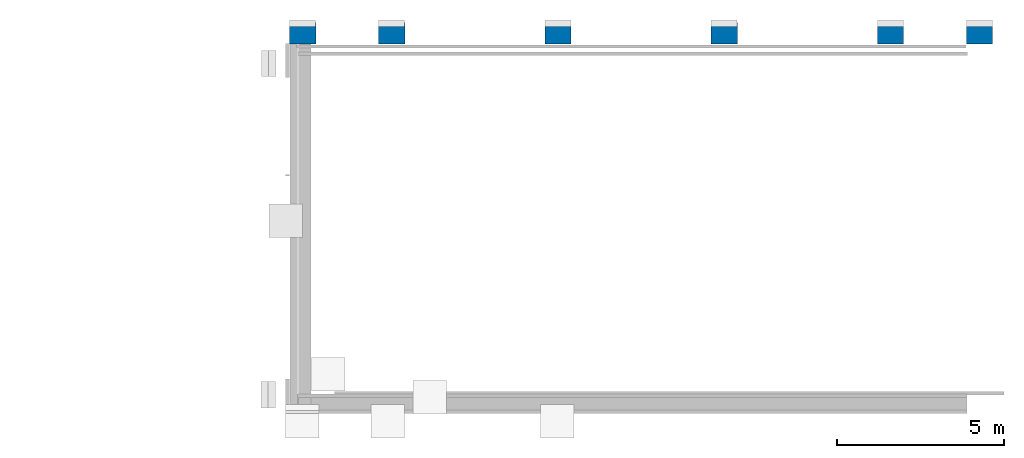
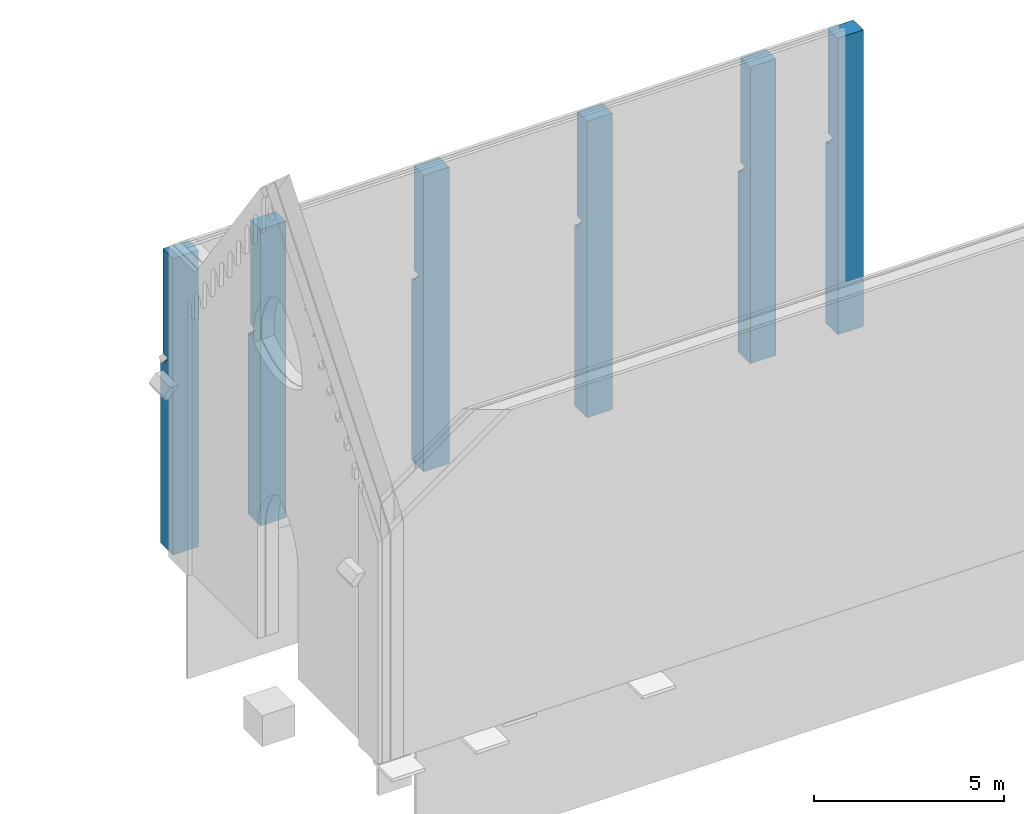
# Not in any storey, part 5 of 5: 6 walls.
"""IFC4 model written with IfcOpenShell, lengths in metres."""

from ifc_helpers import new_model, entity, si_unit, converted_unit, frame, origin_with_axes, origin_2d_with_axis, place, context, subcontext, project, polygons, element, save


model = new_model("IFC4")

# Units and contexts
model_context = context("Model", 3, precision=1e-05, world=origin_with_axes())
plan_context = context("Plan", 2, precision=1e-05, world=origin_2d_with_axis())
body_context = subcontext(model_context, "Body", "Model", "MODEL_VIEW")
ifc_project = project(units=[si_unit("LENGTHUNIT", "METRE"), converted_unit("PLANEANGLEUNIT", "degree", entity("IfcReal", 0.0174532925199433), si_unit("PLANEANGLEUNIT", "RADIAN"), dimensions=[0, 0, 0, 0, 0, 0, 0]), si_unit("AREAUNIT", "SQUARE_METRE"), si_unit("VOLUMEUNIT", "CUBIC_METRE")], contexts=[model_context, plan_context])

# Walls
wall_1_placement = place(None, frame((0.118741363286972, 1.38077664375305, -0.652048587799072), z_axis=(0.999999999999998, 4.37113882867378e-08, -4.37113882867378e-08), x_axis=(-4.37113882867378e-08, 0.999999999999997, -5.96046376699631e-08)))
element("IfcWall", 1, at=wall_1_placement, Name="Buttress_east_01", PredefinedType="SOLIDWALL", context=body_context, shape_type="Tessellation", body=[
    polygons([(9.65258884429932, 10.1823081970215, 0.0), (9.94387245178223, 6.81891202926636, 0.0), (10.176194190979, 10.1823081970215, 4.03733180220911e-09), (9.65258884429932, 10.1823081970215, 0.779999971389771), (10.176194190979, 10.1823081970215, 0.779999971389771), (9.94387245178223, 6.81891202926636, 0.779999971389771), (9.94387245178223, 6.74691295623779, 0.0), (9.65338706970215, 0.649991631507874, 0.0), (10.176194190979, 6.81891202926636, 4.03733180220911e-09), (10.0038709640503, 6.74691295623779, 0.0), (10.0038709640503, 6.67491388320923, 0.0), (10.0638704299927, 6.67491388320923, 0.0), (10.0638704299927, 6.60291481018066, 0.0), (10.1238698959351, 6.60291481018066, 0.0), (10.1238698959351, 6.5309157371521, 0.0), (10.1838684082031, 6.5309157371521, 0.0), (10.1838684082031, 6.45891666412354, 0.0), (10.3038673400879, 6.45891666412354, 0.0), (10.3038673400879, 0.649991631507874, 0.0), (9.65338706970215, 0.649991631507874, 0.779999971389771), (9.94387245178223, 6.74691295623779, 0.779999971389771), (10.176194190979, 6.81891202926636, 0.779999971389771), (10.0038709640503, 6.67491388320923, 0.779999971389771), (10.0038709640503, 6.74691295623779, 0.779999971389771), (10.0638704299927, 6.60291481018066, 0.779999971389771), (10.0638704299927, 6.67491388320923, 0.779999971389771), (10.1238698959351, 6.5309157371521, 0.779999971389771), (10.1238698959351, 6.60291481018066, 0.779999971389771), (10.1838684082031, 6.45891666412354, 0.779999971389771), (10.1838684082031, 6.5309157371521, 0.779999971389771), (10.3038673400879, 0.649991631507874, 0.779999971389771), (10.3038673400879, 6.45891666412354, 0.779999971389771)], [[[1, 3, 2]], [[5, 4, 6]], [[8, 1, 7]], [[3, 9, 2]], [[7, 10, 11]], [[7, 11, 8]], [[11, 12, 13]], [[11, 13, 8]], [[13, 14, 15]], [[13, 15, 8]], [[15, 16, 17]], [[15, 17, 8]], [[17, 18, 19]], [[17, 19, 8]], [[7, 1, 2]], [[4, 20, 21]], [[5, 6, 22]], [[21, 23, 24]], [[21, 20, 23]], [[26, 23, 25]], [[23, 20, 25]], [[28, 25, 27]], [[25, 20, 27]], [[30, 27, 29]], [[27, 20, 29]], [[32, 29, 31]], [[29, 20, 31]], [[4, 21, 6]], [[26, 25, 13]], [[26, 13, 12]], [[3, 1, 4]], [[3, 4, 5]], [[20, 4, 1]], [[20, 1, 8]], [[14, 13, 25]], [[14, 25, 28]], [[5, 22, 9]], [[5, 9, 3]], [[27, 15, 14]], [[27, 14, 28]], [[2, 9, 22]], [[2, 22, 6]], [[16, 15, 27]], [[16, 27, 30]], [[21, 7, 2]], [[21, 2, 6]], [[30, 29, 17]], [[30, 17, 16]], [[24, 10, 7]], [[24, 7, 21]], [[18, 17, 29]], [[18, 29, 32]], [[24, 23, 11]], [[24, 11, 10]], [[31, 19, 18]], [[31, 18, 32]], [[26, 12, 11]], [[26, 11, 23]], [[19, 20, 8]], [[19, 31, 20]]], closed=True),
])
wall_2_placement = place(None, frame((2.77874135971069, 1.38077664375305, -0.652048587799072), z_axis=(0.999999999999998, 4.37113882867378e-08, -4.37113882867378e-08), x_axis=(-4.37113882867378e-08, 0.999999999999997, -5.96046376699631e-08)))
element("IfcWall", 2, at=wall_2_placement, Name="Buttress_east_02", PredefinedType="SOLIDWALL", context=body_context, shape_type="Tessellation", body=[
    polygons([(9.65258884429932, 10.1823081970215, 0.0), (9.94387245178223, 6.81891202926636, 0.0), (10.176194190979, 10.1823081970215, 4.03733180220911e-09), (9.65258884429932, 10.1823081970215, 0.779999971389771), (10.176194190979, 10.1823081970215, 0.779999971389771), (9.94387245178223, 6.81891202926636, 0.779999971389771), (9.94387245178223, 6.74691295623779, 0.0), (9.65338706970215, 0.649991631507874, 0.0), (10.176194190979, 6.81891202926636, 4.03733180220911e-09), (10.0038709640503, 6.74691295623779, 0.0), (10.0038709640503, 6.67491388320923, 0.0), (10.0638704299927, 6.67491388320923, 0.0), (10.0638704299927, 6.60291481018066, 0.0), (10.1238698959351, 6.60291481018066, 0.0), (10.1238698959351, 6.5309157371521, 0.0), (10.1838684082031, 6.5309157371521, 0.0), (10.1838684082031, 6.45891666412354, 0.0), (10.3038673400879, 6.45891666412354, 0.0), (10.3038673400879, 0.649991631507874, 0.0), (9.65338706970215, 0.649991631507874, 0.779999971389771), (9.94387245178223, 6.74691295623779, 0.779999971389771), (10.176194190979, 6.81891202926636, 0.779999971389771), (10.0038709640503, 6.67491388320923, 0.779999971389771), (10.0038709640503, 6.74691295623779, 0.779999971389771), (10.0638704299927, 6.60291481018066, 0.779999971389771), (10.0638704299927, 6.67491388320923, 0.779999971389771), (10.1238698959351, 6.5309157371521, 0.779999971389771), (10.1238698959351, 6.60291481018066, 0.779999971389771), (10.1838684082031, 6.45891666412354, 0.779999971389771), (10.1838684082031, 6.5309157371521, 0.779999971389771), (10.3038673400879, 0.649991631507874, 0.779999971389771), (10.3038673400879, 6.45891666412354, 0.779999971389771)], [[[1, 3, 2]], [[5, 4, 6]], [[8, 1, 7]], [[3, 9, 2]], [[7, 10, 11]], [[7, 11, 8]], [[11, 12, 13]], [[11, 13, 8]], [[13, 14, 15]], [[13, 15, 8]], [[15, 16, 17]], [[15, 17, 8]], [[17, 18, 19]], [[17, 19, 8]], [[7, 1, 2]], [[4, 20, 21]], [[5, 6, 22]], [[21, 23, 24]], [[21, 20, 23]], [[26, 23, 25]], [[23, 20, 25]], [[28, 25, 27]], [[25, 20, 27]], [[30, 27, 29]], [[27, 20, 29]], [[32, 29, 31]], [[29, 20, 31]], [[4, 21, 6]], [[26, 25, 13]], [[26, 13, 12]], [[3, 1, 4]], [[3, 4, 5]], [[20, 4, 1]], [[20, 1, 8]], [[14, 13, 25]], [[14, 25, 28]], [[5, 22, 9]], [[5, 9, 3]], [[27, 15, 14]], [[27, 14, 28]], [[2, 9, 22]], [[2, 22, 6]], [[16, 15, 27]], [[16, 27, 30]], [[21, 7, 2]], [[21, 2, 6]], [[30, 29, 17]], [[30, 17, 16]], [[24, 10, 7]], [[24, 7, 21]], [[18, 17, 29]], [[18, 29, 32]], [[24, 23, 11]], [[24, 11, 10]], [[31, 19, 18]], [[31, 18, 32]], [[26, 12, 11]], [[26, 11, 23]], [[19, 20, 8]], [[19, 31, 20]]], closed=True),
])
wall_3_placement = place(None, frame((7.74374151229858, 1.38077664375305, -0.652048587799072), z_axis=(0.999999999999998, 4.37113882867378e-08, -4.37113882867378e-08), x_axis=(-4.37113882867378e-08, 0.999999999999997, -5.96046376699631e-08)))
element("IfcWall", 3, at=wall_3_placement, Name="Buttress_east_03", PredefinedType="SOLIDWALL", context=body_context, shape_type="Tessellation", body=[
    polygons([(9.65258884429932, 10.1823081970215, 0.0), (9.94387245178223, 6.81891202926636, 0.0), (10.176194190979, 10.1823081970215, 4.03733180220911e-09), (9.65258884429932, 10.1823081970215, 0.779999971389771), (10.176194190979, 10.1823081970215, 0.779999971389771), (9.94387245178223, 6.81891202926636, 0.779999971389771), (9.94387245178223, 6.74691295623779, 0.0), (9.65338706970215, 0.649991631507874, 0.0), (10.176194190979, 6.81891202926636, 4.03733180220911e-09), (10.0038709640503, 6.74691295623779, 0.0), (10.0038709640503, 6.67491388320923, 0.0), (10.0638704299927, 6.67491388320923, 0.0), (10.0638704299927, 6.60291481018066, 0.0), (10.1238698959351, 6.60291481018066, 0.0), (10.1238698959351, 6.5309157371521, 0.0), (10.1838684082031, 6.5309157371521, 0.0), (10.1838684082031, 6.45891666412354, 0.0), (10.3038673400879, 6.45891666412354, 0.0), (10.3038673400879, 0.649991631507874, 0.0), (9.65338706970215, 0.649991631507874, 0.779999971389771), (9.94387245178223, 6.74691295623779, 0.779999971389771), (10.176194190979, 6.81891202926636, 0.779999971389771), (10.0038709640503, 6.67491388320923, 0.779999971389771), (10.0038709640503, 6.74691295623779, 0.779999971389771), (10.0638704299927, 6.60291481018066, 0.779999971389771), (10.0638704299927, 6.67491388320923, 0.779999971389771), (10.1238698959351, 6.5309157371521, 0.779999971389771), (10.1238698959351, 6.60291481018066, 0.779999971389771), (10.1838684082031, 6.45891666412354, 0.779999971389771), (10.1838684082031, 6.5309157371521, 0.779999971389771), (10.3038673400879, 0.649991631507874, 0.779999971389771), (10.3038673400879, 6.45891666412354, 0.779999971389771)], [[[1, 3, 2]], [[5, 4, 6]], [[8, 1, 7]], [[3, 9, 2]], [[7, 10, 11]], [[7, 11, 8]], [[11, 12, 13]], [[11, 13, 8]], [[13, 14, 15]], [[13, 15, 8]], [[15, 16, 17]], [[15, 17, 8]], [[17, 18, 19]], [[17, 19, 8]], [[7, 1, 2]], [[4, 20, 21]], [[5, 6, 22]], [[21, 23, 24]], [[21, 20, 23]], [[26, 23, 25]], [[23, 20, 25]], [[28, 25, 27]], [[25, 20, 27]], [[30, 27, 29]], [[27, 20, 29]], [[32, 29, 31]], [[29, 20, 31]], [[4, 21, 6]], [[26, 25, 13]], [[26, 13, 12]], [[3, 1, 4]], [[3, 4, 5]], [[20, 4, 1]], [[20, 1, 8]], [[14, 13, 25]], [[14, 25, 28]], [[5, 22, 9]], [[5, 9, 3]], [[27, 15, 14]], [[27, 14, 28]], [[2, 9, 22]], [[2, 22, 6]], [[16, 15, 27]], [[16, 27, 30]], [[21, 7, 2]], [[21, 2, 6]], [[30, 29, 17]], [[30, 17, 16]], [[24, 10, 7]], [[24, 7, 21]], [[18, 17, 29]], [[18, 29, 32]], [[24, 23, 11]], [[24, 11, 10]], [[31, 19, 18]], [[31, 18, 32]], [[26, 12, 11]], [[26, 11, 23]], [[19, 20, 8]], [[19, 31, 20]]], closed=True),
])
wall_4_placement = place(None, frame((12.7087421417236, 1.38077664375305, -0.652048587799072), z_axis=(0.999999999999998, 4.37113882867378e-08, -4.37113882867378e-08), x_axis=(-4.37113882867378e-08, 0.999999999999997, -5.96046376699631e-08)))
element("IfcWall", 4, at=wall_4_placement, Name="Buttress_east_04", PredefinedType="SOLIDWALL", context=body_context, shape_type="Tessellation", body=[
    polygons([(9.65258884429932, 10.1823081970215, 0.0), (9.94387245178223, 6.81891202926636, 0.0), (10.176194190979, 10.1823081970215, 4.03733180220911e-09), (9.65258884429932, 10.1823081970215, 0.779999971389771), (10.176194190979, 10.1823081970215, 0.779999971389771), (9.94387245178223, 6.81891202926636, 0.779999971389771), (9.94387245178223, 6.74691295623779, 0.0), (9.65338706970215, 0.649991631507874, 0.0), (10.176194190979, 6.81891202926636, 4.03733180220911e-09), (10.0038709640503, 6.74691295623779, 0.0), (10.0038709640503, 6.67491388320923, 0.0), (10.0638704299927, 6.67491388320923, 0.0), (10.0638704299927, 6.60291481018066, 0.0), (10.1238698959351, 6.60291481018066, 0.0), (10.1238698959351, 6.5309157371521, 0.0), (10.1838684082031, 6.5309157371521, 0.0), (10.1838684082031, 6.45891666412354, 0.0), (10.3038673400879, 6.45891666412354, 0.0), (10.3038673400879, 0.649991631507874, 0.0), (9.65338706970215, 0.649991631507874, 0.779999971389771), (9.94387245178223, 6.74691295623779, 0.779999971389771), (10.176194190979, 6.81891202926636, 0.779999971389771), (10.0038709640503, 6.67491388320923, 0.779999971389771), (10.0038709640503, 6.74691295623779, 0.779999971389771), (10.0638704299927, 6.60291481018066, 0.779999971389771), (10.0638704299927, 6.67491388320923, 0.779999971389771), (10.1238698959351, 6.5309157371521, 0.779999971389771), (10.1238698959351, 6.60291481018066, 0.779999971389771), (10.1838684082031, 6.45891666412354, 0.779999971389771), (10.1838684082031, 6.5309157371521, 0.779999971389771), (10.3038673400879, 0.649991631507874, 0.779999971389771), (10.3038673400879, 6.45891666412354, 0.779999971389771)], [[[1, 3, 2]], [[5, 4, 6]], [[8, 1, 7]], [[3, 9, 2]], [[7, 10, 11]], [[7, 11, 8]], [[11, 12, 13]], [[11, 13, 8]], [[13, 14, 15]], [[13, 15, 8]], [[15, 16, 17]], [[15, 17, 8]], [[17, 18, 19]], [[17, 19, 8]], [[7, 1, 2]], [[4, 20, 21]], [[5, 6, 22]], [[21, 23, 24]], [[21, 20, 23]], [[26, 23, 25]], [[23, 20, 25]], [[28, 25, 27]], [[25, 20, 27]], [[30, 27, 29]], [[27, 20, 29]], [[32, 29, 31]], [[29, 20, 31]], [[4, 21, 6]], [[26, 25, 13]], [[26, 13, 12]], [[3, 1, 4]], [[3, 4, 5]], [[20, 4, 1]], [[20, 1, 8]], [[14, 13, 25]], [[14, 25, 28]], [[5, 22, 9]], [[5, 9, 3]], [[27, 15, 14]], [[27, 14, 28]], [[2, 9, 22]], [[2, 22, 6]], [[16, 15, 27]], [[16, 27, 30]], [[21, 7, 2]], [[21, 2, 6]], [[30, 29, 17]], [[30, 17, 16]], [[24, 10, 7]], [[24, 7, 21]], [[18, 17, 29]], [[18, 29, 32]], [[24, 23, 11]], [[24, 11, 10]], [[31, 19, 18]], [[31, 18, 32]], [[26, 12, 11]], [[26, 11, 23]], [[19, 20, 8]], [[19, 31, 20]]], closed=True),
])
wall_5_placement = place(None, frame((17.6737422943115, 1.38077664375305, -0.652048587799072), z_axis=(0.999999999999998, 4.37113882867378e-08, -4.37113882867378e-08), x_axis=(-4.37113882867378e-08, 0.999999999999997, -5.96046376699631e-08)))
element("IfcWall", 5, at=wall_5_placement, Name="Buttress_east_05", PredefinedType="SOLIDWALL", context=body_context, shape_type="Tessellation", body=[
    polygons([(9.65258884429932, 10.1823081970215, 0.0), (9.94387245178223, 6.81891202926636, 0.0), (10.176194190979, 10.1823081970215, 4.03733180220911e-09), (9.65258884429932, 10.1823081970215, 0.779999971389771), (10.176194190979, 10.1823081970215, 0.779999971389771), (9.94387245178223, 6.81891202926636, 0.779999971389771), (9.94387245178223, 6.74691295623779, 0.0), (9.65338706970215, 0.649991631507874, 0.0), (10.176194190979, 6.81891202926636, 4.03733180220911e-09), (10.0038709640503, 6.74691295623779, 0.0), (10.0038709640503, 6.67491388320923, 0.0), (10.0638704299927, 6.67491388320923, 0.0), (10.0638704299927, 6.60291481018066, 0.0), (10.1238698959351, 6.60291481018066, 0.0), (10.1238698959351, 6.5309157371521, 0.0), (10.1838684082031, 6.5309157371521, 0.0), (10.1838684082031, 6.45891666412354, 0.0), (10.3038673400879, 6.45891666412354, 0.0), (10.3038673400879, 0.649991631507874, 0.0), (9.65338706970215, 0.649991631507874, 0.779999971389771), (9.94387245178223, 6.74691295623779, 0.779999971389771), (10.176194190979, 6.81891202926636, 0.779999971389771), (10.0038709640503, 6.67491388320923, 0.779999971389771), (10.0038709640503, 6.74691295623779, 0.779999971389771), (10.0638704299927, 6.60291481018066, 0.779999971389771), (10.0638704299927, 6.67491388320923, 0.779999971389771), (10.1238698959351, 6.5309157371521, 0.779999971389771), (10.1238698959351, 6.60291481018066, 0.779999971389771), (10.1838684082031, 6.45891666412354, 0.779999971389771), (10.1838684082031, 6.5309157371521, 0.779999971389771), (10.3038673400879, 0.649991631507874, 0.779999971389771), (10.3038673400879, 6.45891666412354, 0.779999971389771)], [[[1, 3, 2]], [[5, 4, 6]], [[8, 1, 7]], [[3, 9, 2]], [[7, 10, 11]], [[7, 11, 8]], [[11, 12, 13]], [[11, 13, 8]], [[13, 14, 15]], [[13, 15, 8]], [[15, 16, 17]], [[15, 17, 8]], [[17, 18, 19]], [[17, 19, 8]], [[7, 1, 2]], [[4, 20, 21]], [[5, 6, 22]], [[21, 23, 24]], [[21, 20, 23]], [[26, 23, 25]], [[23, 20, 25]], [[28, 25, 27]], [[25, 20, 27]], [[30, 27, 29]], [[27, 20, 29]], [[32, 29, 31]], [[29, 20, 31]], [[4, 21, 6]], [[26, 25, 13]], [[26, 13, 12]], [[3, 1, 4]], [[3, 4, 5]], [[20, 4, 1]], [[20, 1, 8]], [[14, 13, 25]], [[14, 25, 28]], [[5, 22, 9]], [[5, 9, 3]], [[27, 15, 14]], [[27, 14, 28]], [[2, 9, 22]], [[2, 22, 6]], [[16, 15, 27]], [[16, 27, 30]], [[21, 7, 2]], [[21, 2, 6]], [[30, 29, 17]], [[30, 17, 16]], [[24, 10, 7]], [[24, 7, 21]], [[18, 17, 29]], [[18, 29, 32]], [[24, 23, 11]], [[24, 11, 10]], [[31, 19, 18]], [[31, 18, 32]], [[26, 12, 11]], [[26, 11, 23]], [[19, 20, 8]], [[19, 31, 20]]], closed=True),
])
wall_6_placement = place(None, frame((20.3337421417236, 1.38077664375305, -0.652048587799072), z_axis=(0.999999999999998, 4.37113882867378e-08, -4.37113882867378e-08), x_axis=(-4.37113882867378e-08, 0.999999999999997, -5.96046376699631e-08)))
element("IfcWall", 6, at=wall_6_placement, Name="Buttress_east_06", PredefinedType="SOLIDWALL", context=body_context, shape_type="Tessellation", body=[
    polygons([(9.65258884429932, 10.1823081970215, 0.0), (9.94387245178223, 6.81891202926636, 0.0), (10.176194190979, 10.1823081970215, 4.03733180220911e-09), (9.65258884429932, 10.1823081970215, 0.779999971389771), (10.176194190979, 10.1823081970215, 0.779999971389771), (9.94387245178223, 6.81891202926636, 0.779999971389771), (9.94387245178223, 6.74691295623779, 0.0), (9.65338706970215, 0.649991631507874, 0.0), (10.176194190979, 6.81891202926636, 4.03733180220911e-09), (10.0038709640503, 6.74691295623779, 0.0), (10.0038709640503, 6.67491388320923, 0.0), (10.0638704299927, 6.67491388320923, 0.0), (10.0638704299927, 6.60291481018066, 0.0), (10.1238698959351, 6.60291481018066, 0.0), (10.1238698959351, 6.5309157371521, 0.0), (10.1838684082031, 6.5309157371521, 0.0), (10.1838684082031, 6.45891666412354, 0.0), (10.3038673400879, 6.45891666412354, 0.0), (10.3038673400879, 0.649991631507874, 0.0), (9.65338706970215, 0.649991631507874, 0.779999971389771), (9.94387245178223, 6.74691295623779, 0.779999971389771), (10.176194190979, 6.81891202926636, 0.779999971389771), (10.0038709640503, 6.67491388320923, 0.779999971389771), (10.0038709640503, 6.74691295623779, 0.779999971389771), (10.0638704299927, 6.60291481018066, 0.779999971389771), (10.0638704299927, 6.67491388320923, 0.779999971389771), (10.1238698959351, 6.5309157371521, 0.779999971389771), (10.1238698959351, 6.60291481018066, 0.779999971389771), (10.1838684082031, 6.45891666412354, 0.779999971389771), (10.1838684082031, 6.5309157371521, 0.779999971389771), (10.3038673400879, 0.649991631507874, 0.779999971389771), (10.3038673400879, 6.45891666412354, 0.779999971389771)], [[[1, 3, 2]], [[5, 4, 6]], [[8, 1, 7]], [[3, 9, 2]], [[7, 10, 11]], [[7, 11, 8]], [[11, 12, 13]], [[11, 13, 8]], [[13, 14, 15]], [[13, 15, 8]], [[15, 16, 17]], [[15, 17, 8]], [[17, 18, 19]], [[17, 19, 8]], [[7, 1, 2]], [[4, 20, 21]], [[5, 6, 22]], [[21, 23, 24]], [[21, 20, 23]], [[26, 23, 25]], [[23, 20, 25]], [[28, 25, 27]], [[25, 20, 27]], [[30, 27, 29]], [[27, 20, 29]], [[32, 29, 31]], [[29, 20, 31]], [[4, 21, 6]], [[26, 25, 13]], [[26, 13, 12]], [[3, 1, 4]], [[3, 4, 5]], [[20, 4, 1]], [[20, 1, 8]], [[14, 13, 25]], [[14, 25, 28]], [[5, 22, 9]], [[5, 9, 3]], [[27, 15, 14]], [[27, 14, 28]], [[2, 9, 22]], [[2, 22, 6]], [[16, 15, 27]], [[16, 27, 30]], [[21, 7, 2]], [[21, 2, 6]], [[30, 29, 17]], [[30, 17, 16]], [[24, 10, 7]], [[24, 7, 21]], [[18, 17, 29]], [[18, 29, 32]], [[24, 23, 11]], [[24, 11, 10]], [[31, 19, 18]], [[31, 18, 32]], [[26, 12, 11]], [[26, 11, 23]], [[19, 20, 8]], [[19, 31, 20]]], closed=True),
])

save(model, "model.ifc")
